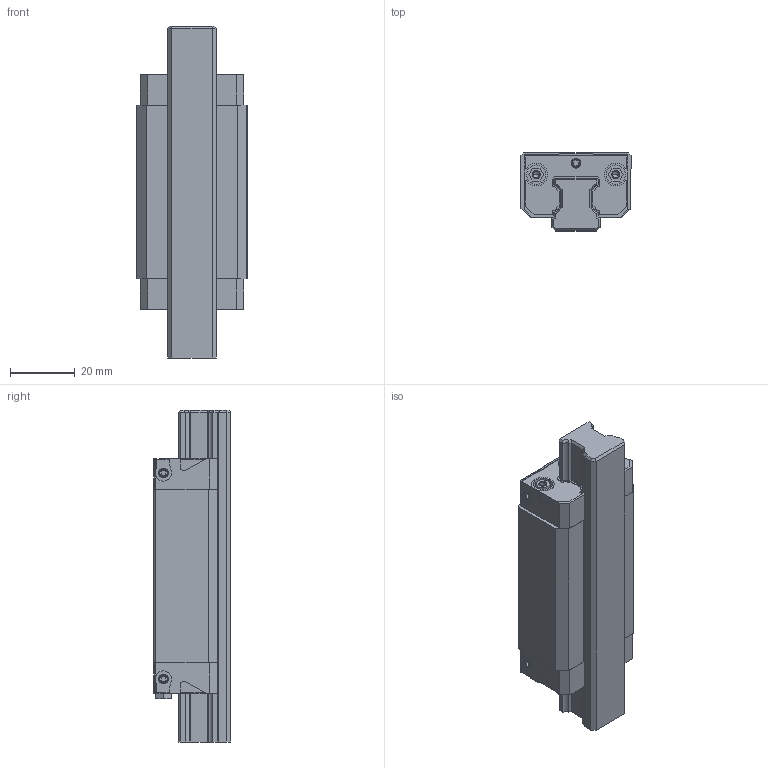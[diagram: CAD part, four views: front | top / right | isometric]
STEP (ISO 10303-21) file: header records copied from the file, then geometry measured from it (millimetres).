
FILE_DESCRIPTION((''),'2;1');
FILE_NAME('KWD_015_SLS_CS__ASM','2021-10-14T06:57:55',('ac91sw'),(''),'CREO PARAMETRIC BY PTC INC, 2020044','CREO PARAMETRIC BY PTC INC, 2020044','');
FILE_SCHEMA(('AUTOMOTIVE_DESIGN { 1 0 10303 214 1 1 1 1 }'));
Length unit declared in the file: millimetre
Products named in the file (7): KWD_015_SLS_CS__SKEL; R201210131; R200110102_Z; R343708901_Z; KWD_015_SLS_CS__PSF; R341702909_Z; KWD_015_SLS_CS__ASM
Assembly tree (11 placements, depth 2):
  KWD_015_SLS_CS__ASM
    KWD_015_SLS_CS__SKEL
    R201210131
    R200110102_Z  x2
    R343708901_Z  x5
    KWD_015_SLS_CS__PSF
    R341702909_Z
Bounding box: 34 x 24 x 102.6 mm (x, y, z)
Volume: 50386.9 mm3; surface area: 23795.8 mm2
Topology: 10 solids, 24 shells, 501 faces, 1294 edges, 827 vertices
Faces by surface type: plane 291, cylinder 146, cone 64
Entity records: 16301 total; most frequent: CARTESIAN_POINT 1969, DIRECTION 1620, ORIENTED_EDGE 1520, PROPERTY_DEFINITION 824, REPRESENTATION 815, PROPERTY_DEFINITION_REPRESENTATION 815, EDGE_CURVE 776, DESCRIPTIVE_REPRESENTATION_ITEM 758
